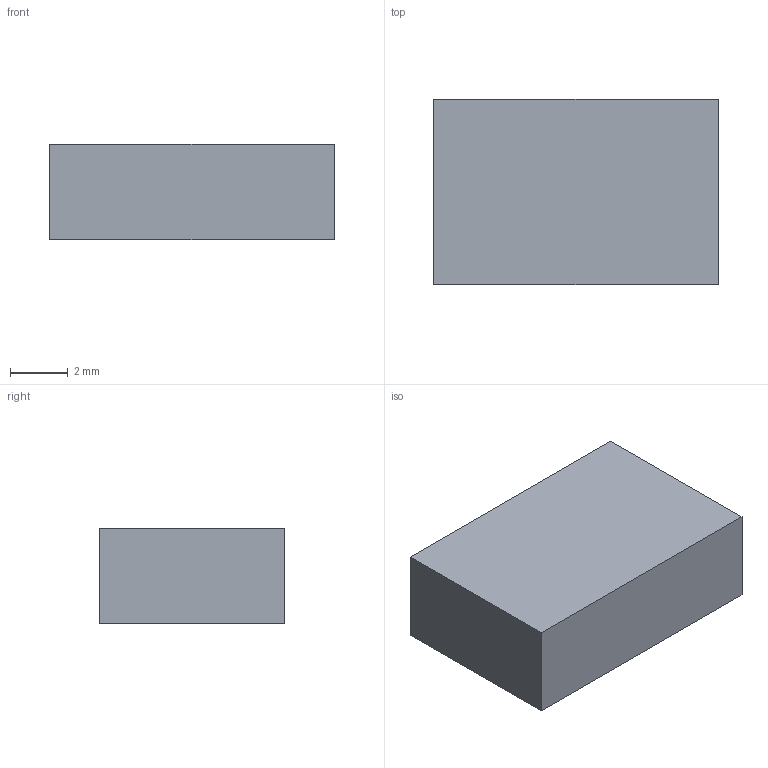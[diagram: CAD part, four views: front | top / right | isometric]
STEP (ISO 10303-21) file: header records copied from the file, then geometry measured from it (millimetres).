
FILE_DESCRIPTION(('Open CASCADE Model'),'2;1');
FILE_NAME('Open CASCADE Shape Model','2026-09-29T12:47:59',('Author'),( 'Open CASCADE'),'Open CASCADE STEP processor 7.9','Open CASCADE 7.9' ,'Unknown');
FILE_SCHEMA(('AUTOMOTIVE_DESIGN { 1 0 10303 214 1 1 1 1 }'));
Length unit declared in the file: millimetre
Products named in the file (1): Open CASCADE STEP translator 7.9 6
Bounding box: 9.8 x 6.4 x 3.3 mm (x, y, z)
Volume: 207 mm3; surface area: 232.4 mm2
Topology: 1 solids, 1 shells, 6 faces, 12 edges, 8 vertices
Faces by surface type: plane 6
Entity records: 322 total; most frequent: CARTESIAN_POINT 51, DIRECTION 50, LINE 36, VECTOR 36, ORIENTED_EDGE 24, PCURVE 24, DEFINITIONAL_REPRESENTATION 24, EDGE_CURVE 12
